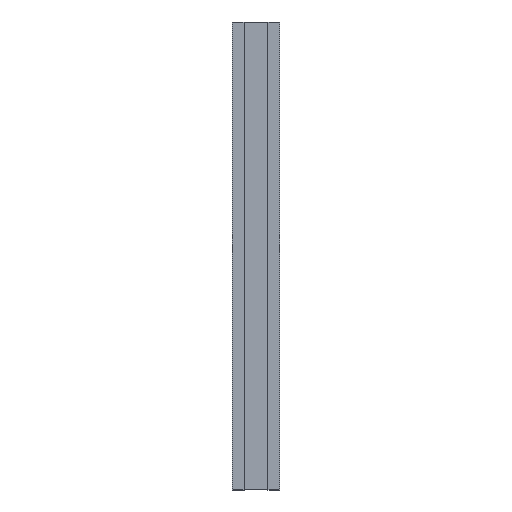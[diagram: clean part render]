
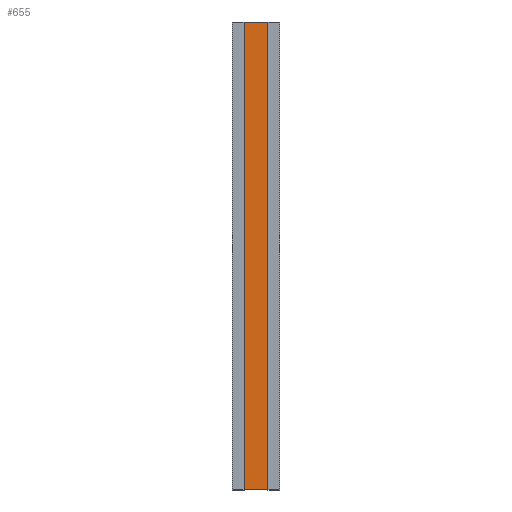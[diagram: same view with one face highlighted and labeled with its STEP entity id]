
A CAD part, front view. The second image highlights one B-rep face of the part: STEP entity #655.
In plain terms, the highlighted planar face has unit normal (0, -1, 0).
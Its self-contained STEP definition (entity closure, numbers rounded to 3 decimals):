
#463 = VERTEX_POINT ( 'NONE', #1839 ) ;
#465 = EDGE_CURVE ( 'NONE', #466, #463, #1838, .T. ) ;
#466 = VERTEX_POINT ( 'NONE', #1834 ) ;
#652 = EDGE_CURVE ( 'NONE', #833, #466, #2398, .T. ) ;
#655 = ADVANCED_FACE ( 'NONE', ( #2384 ), #2382, .F. ) ;
#656 = EDGE_LOOP ( 'NONE', ( #657, #658, #660, #661 ) ) ;
#657 = ORIENTED_EDGE ( 'NONE', *, *, #465, .T. ) ;
#658 = ORIENTED_EDGE ( 'NONE', *, *, #659, .F. ) ;
#659 = EDGE_CURVE ( 'NONE', #853, #463, #2383, .T. ) ;
#660 = ORIENTED_EDGE ( 'NONE', *, *, #852, .F. ) ;
#661 = ORIENTED_EDGE ( 'NONE', *, *, #652, .T. ) ;
#833 = VERTEX_POINT ( 'NONE', #2704 ) ;
#852 = EDGE_CURVE ( 'NONE', #833, #853, #2726, .T. ) ;
#853 = VERTEX_POINT ( 'NONE', #2722 ) ;
#1834 = CARTESIAN_POINT ( 'NONE',  ( -22.366, -12.5, 0. ) ) ;
#1835 = DIRECTION ( 'NONE',  ( 1., 0., 0. ) ) ;
#1836 = VECTOR ( 'NONE', #1835, 1000. ) ;
#1837 = CARTESIAN_POINT ( 'NONE',  ( 22.366, -12.5, 0. ) ) ;
#1838 = LINE ( 'NONE', #1837, #1836 ) ;
#1839 = CARTESIAN_POINT ( 'NONE',  ( 22.366, -12.5, 0. ) ) ;
#2380 = CARTESIAN_POINT ( 'NONE',  ( 22.366, -12.5, 832. ) ) ;
#2381 = AXIS2_PLACEMENT_3D ( 'NONE', #2380, #2474, #2473 ) ;
#2382 = PLANE ( 'NONE',  #2381 ) ;
#2383 = LINE ( 'NONE', #2472, #2471 ) ;
#2384 = FACE_OUTER_BOUND ( 'NONE', #656, .T. ) ;
#2395 = DIRECTION ( 'NONE',  ( 0., 0., -1. ) ) ;
#2396 = VECTOR ( 'NONE', #2395, 1000. ) ;
#2397 = CARTESIAN_POINT ( 'NONE',  ( -22.366, -12.5, 832. ) ) ;
#2398 = LINE ( 'NONE', #2397, #2396 ) ;
#2470 = DIRECTION ( 'NONE',  ( 0., 0., -1. ) ) ;
#2471 = VECTOR ( 'NONE', #2470, 1000. ) ;
#2472 = CARTESIAN_POINT ( 'NONE',  ( 22.366, -12.5, 832. ) ) ;
#2473 = DIRECTION ( 'NONE',  ( -1., 0., 0. ) ) ;
#2474 = DIRECTION ( 'NONE',  ( 0., 1., 0. ) ) ;
#2704 = CARTESIAN_POINT ( 'NONE',  ( -22.366, -12.5, 832. ) ) ;
#2722 = CARTESIAN_POINT ( 'NONE',  ( 22.366, -12.5, 832. ) ) ;
#2723 = DIRECTION ( 'NONE',  ( 1., 0., 0. ) ) ;
#2724 = VECTOR ( 'NONE', #2723, 1000. ) ;
#2725 = CARTESIAN_POINT ( 'NONE',  ( 22.366, -12.5, 832. ) ) ;
#2726 = LINE ( 'NONE', #2725, #2724 ) ;
